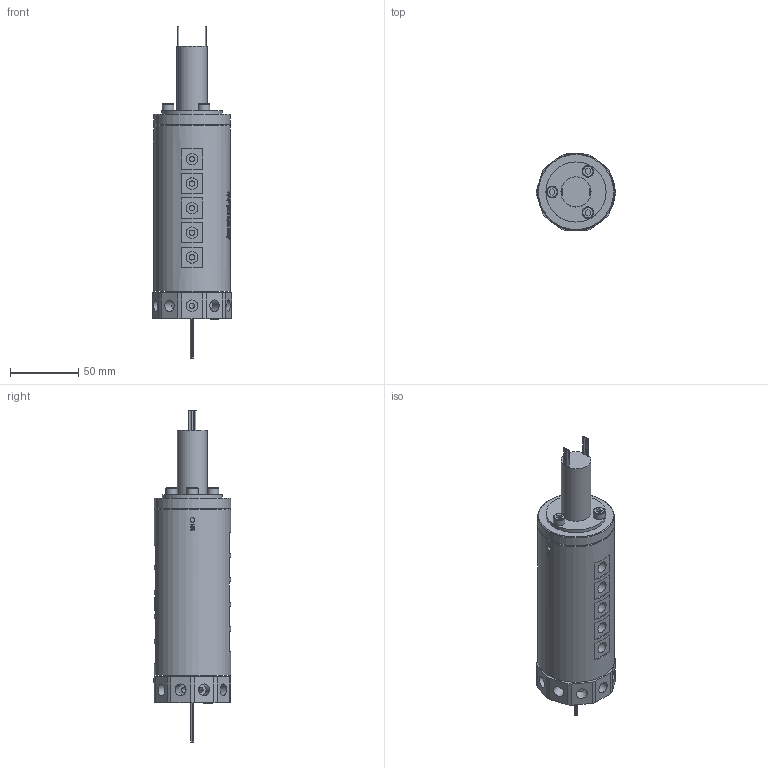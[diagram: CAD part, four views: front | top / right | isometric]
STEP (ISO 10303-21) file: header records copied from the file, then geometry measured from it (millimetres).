
FILE_DESCRIPTION(/* description */ (''),/* implementation_level */ '2;1');
FILE_NAME(/* name */ 'HQ1001-36M.stp',/* time_stamp */ '2025-02-14T12:02:15+08:00',/* author */ (''),/* organization */ (''),/* preprocessor_version */ 'ST-DEVELOPER v16.7',/* originating_system */ 'SIEMENS PLM Software NX 12.0',/* authorisation */ '');
FILE_SCHEMA (('AUTOMOTIVE_DESIGN { 1 0 10303 214 3 1 1 1 }'));
Length unit declared in the file: millimetre
Products named in the file (1): HX0540E8A2D8ngkx
Bounding box: 57.99 x 56.5 x 243.3 mm (x, y, z)
Volume: 369945.7 mm3; surface area: 56814.8 mm2
Topology: 1 solids, 4 shells, 1210 faces, 3149 edges, 2124 vertices
Faces by surface type: plane 541, extrusion 485, cylinder 144, bspline 30, cone 7, torus 3
Full cylindrical faces by diameter (mm): 0.8 x16, 3.4 x6, 4 x30, 4.1 x10, 4.2 x10, 5 x3, 5.5 x3, 7.8 x1, 8 x1, 8.5 x23, 22 x1, 34 x1, 44 x1, 56 x2
Entity records: 42962 total; most frequent: CARTESIAN_POINT 17540, ORIENTED_EDGE 5884, DIRECTION 3372, EDGE_CURVE 2942, B_SPLINE_CURVE_WITH_KNOTS 2351, VERTEX_POINT 2049, EDGE_LOOP 1515, ADVANCED_FACE 1207
